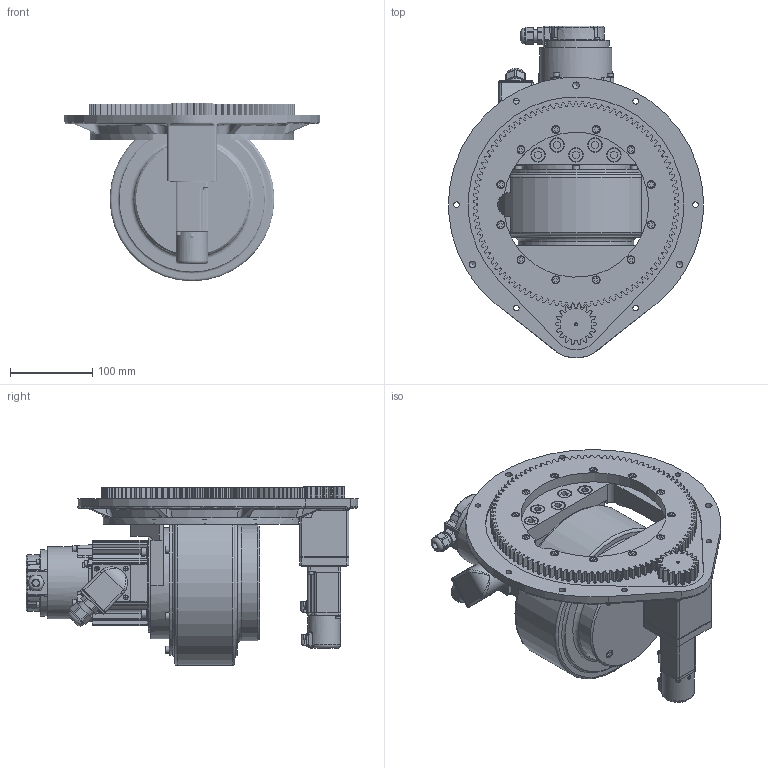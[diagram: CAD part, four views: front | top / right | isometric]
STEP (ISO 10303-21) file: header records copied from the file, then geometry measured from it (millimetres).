
FILE_DESCRIPTION(('STEP AP203'),'1');
FILE_NAME('SUW030B.stp','2021-04-08T04:20:49',(' '),(' '),'Spatial InterOp 3D',' ',' ');
FILE_SCHEMA(('CONFIG_CONTROL_DESIGN'));
Length unit declared in the file: millimetre
Products named in the file (1): SUW030B
Bounding box: 309.6 x 403 x 217 mm (x, y, z)
Volume: 6228638.5 mm3; surface area: 551841.8 mm2
Topology: 2 solids, 43 shells, 3144 faces, 7964 edges, 5120 vertices
Faces by surface type: plane 1381, cylinder 1182, torus 218, cone 203, bspline 76, extrusion 36, sphere 31, revolution 9, offset 8
Full cylindrical faces by diameter (mm): 2 x1, 2.1 x3, 2.5 x12, 3 x21, 3.2 x6, 3.3 x11, 3.4 x1, 3.5 x16, 4 x8, 4.2 x6, 4.5 x8, 4.7 x2, 5 x28, 5.5 x37, 5.6 x11, 6 x9, 6.4 x4, 6.6 x4, 6.75 x6, 7 x10, 8 x8, 8.5 x39, 9.5 x23, 10 x13, 11 x5, 12 x5, 12.5 x1, 15.2 x1, 16 x5, 17.5 x5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
Entity records: 104242 total; most frequent: CARTESIAN_POINT 31223, DIRECTION 15575, ORIENTED_EDGE 14406, EDGE_CURVE 7203, AXIS2_PLACEMENT_3D 6162, VERTEX_POINT 4869, EDGE_LOOP 3952, FACE_OUTER_BOUND 3495
